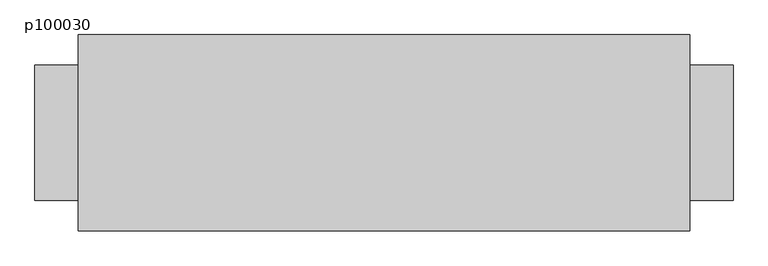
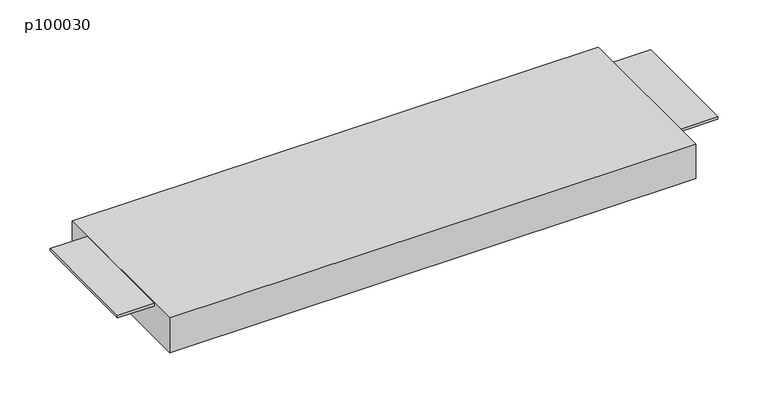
"""IFC4 building model written with IfcOpenShell, lengths in millimetres: proxy geometry, MILLS_ACRAM_PLANCHER_ACIER : p100030."""

from ifc_helpers import new_model, si_unit, frame, origin, place, context, project, spatial, polyline, outline, extrude, source, transform, mapped, element, save


def p100030_06e32ebb(model_context):
    return source(origin(), model_context, "Body", "SweptSolid", [
        extrude(outline(polyline([(-977.3689476, 1065.022398), (-1911.3689476, 1065.022398), (-1911.3689476, 1365.022398), (-977.3689476, 1365.022398), (-977.3689476, 1065.022398)])), frame((0.0, 0.0, -40.0), z_axis=(0.0, 0.0, 1.0), x_axis=(1.0, 0.0, 0.0)), (0.0, 0.0, 1.0), 65.0),
        extrude(outline(polyline([(-1911.3689476, 1111.522398), (-1977.3689476, 1111.522398), (-1977.3689476, 1318.522398), (-1911.3689476, 1318.522398), (-1911.3689476, 1111.522398)])), frame((0.0, 0.0, 20.0), z_axis=(0.0, 0.0, 1.0), x_axis=(1.0, 0.0, 0.0)), (0.0, 0.0, 1.0), 5.0),
        extrude(outline(polyline([(-911.3689476, 1111.522398), (-977.3689476, 1111.522398), (-977.3689476, 1318.522398), (-911.3689476, 1318.522398), (-911.3689476, 1111.522398)])), frame((0.0, 0.0, 20.0), z_axis=(0.0, 0.0, 1.0), x_axis=(1.0, 0.0, 0.0)), (0.0, 0.0, 1.0), 5.0),
    ])


if __name__ == "__main__":
    model = new_model("IFC4")
    model_context = context("Model", 3, world=origin())
    ifc_project = project(units=[si_unit("LENGTHUNIT", "METRE", prefix="MILLI")], contexts=[model_context])
    site = spatial("IfcSite", under=ifc_project)
    building = spatial("IfcBuilding", under=site)
    placement = place(None, origin())
    p100030_shape = p100030_06e32ebb(model_context)
    element("IfcBuildingElementProxy", 1, Name="MILLS_ACRAM_PLANCHER_ACIER : p100030", ObjectType="MILLS_ACRAM_PLANCHER_ACIER : p100030", at=placement, inside=building, context=model_context, shape_type="MappedRepresentation", body=[
        mapped(p100030_shape, transform((0.0, 0.0, 0.0), x_axis=(1.0, 0.0, 0.0), y_axis=(0.0, 1.0, 0.0), z_axis=(0.0, 0.0, 1.0))),
    ])
    save(model, "model.ifc")
